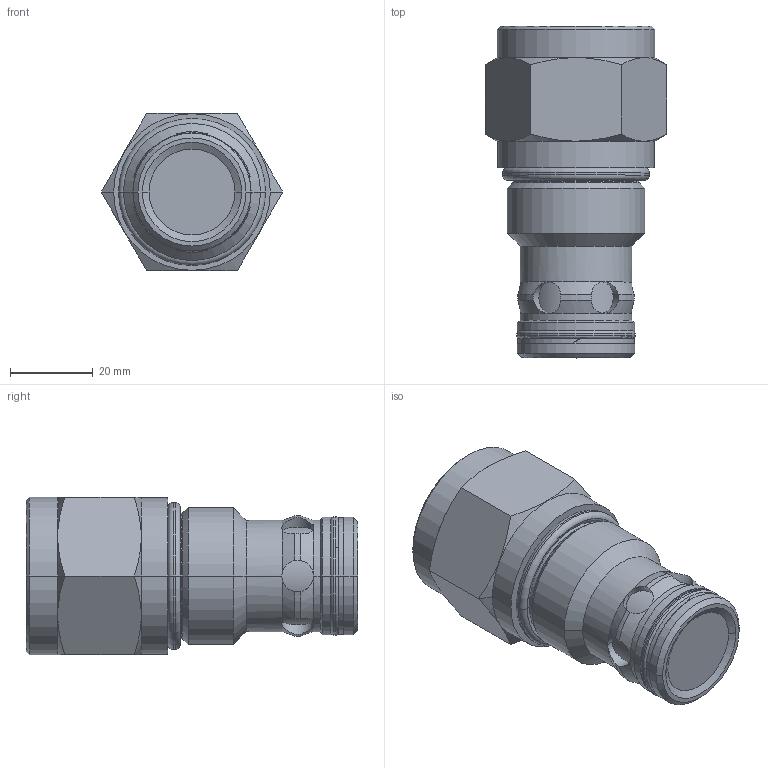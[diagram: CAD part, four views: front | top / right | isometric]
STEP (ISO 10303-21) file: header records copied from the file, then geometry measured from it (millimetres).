
FILE_DESCRIPTION((''),'2;1');
FILE_NAME('CVFP-16-_-_','2015-09-03T',('torrese'),(''),'PRO/ENGINEER BY PARAMETRIC TECHNOLOGY CORPORATION, 2015070','PRO/ENGINEER BY PARAMETRIC TECHNOLOGY CORPORATION, 2015070','');
FILE_SCHEMA(('CONFIG_CONTROL_DESIGN','GEOMETRIC_VALIDATION_PROPERTIES_MIM'));
Length unit declared in the file: inch
Products named in the file (1): CVFP-16-_-_
Bounding box: 43.99 x 80.39 x 38.1 mm (x, y, z)
Volume: 72797.1 mm3; surface area: 11929.5 mm2
Topology: 1 solids, 1 shells, 108 faces, 258 edges, 158 vertices
Faces by surface type: cylinder 51, cone 28, plane 17, torus 12
Entity records: 7138 total; most frequent: CARTESIAN_POINT 3304, ORIENTED_EDGE 516, DIRECTION 489, PRESENTATION_STYLE_ASSIGNMENT 332, STYLED_ITEM 282, CURVE_STYLE 258, EDGE_CURVE 258, AXIS2_PLACEMENT_3D 213
